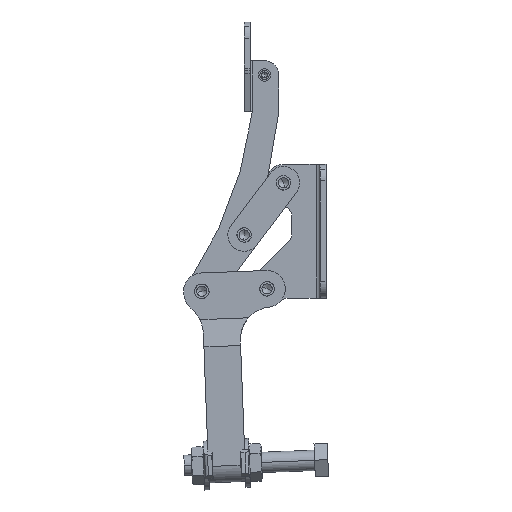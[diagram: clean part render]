
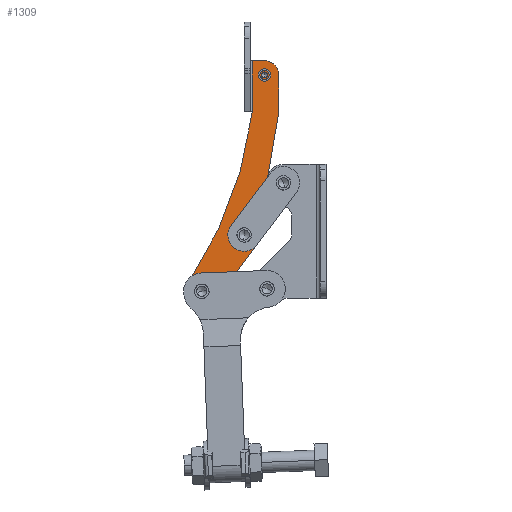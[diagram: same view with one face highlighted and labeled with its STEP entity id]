
A CAD part, left-side view. The second image highlights one B-rep face of the part: STEP entity #1309.
In plain terms, the highlighted free-form (B-spline) face has degree [1, 1] with [2, 2] control points.
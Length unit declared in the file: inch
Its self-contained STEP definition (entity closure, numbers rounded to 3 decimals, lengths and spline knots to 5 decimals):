
#166=CARTESIAN_POINT('',(3.4235,0.97471,-0.0897));
#167=VERTEX_POINT('',#166);
#176=CARTESIAN_POINT('',(3.2005,0.97471,-0.0897));
#177=VERTEX_POINT('',#176);
#178=CARTESIAN_POINT('',(3.312,0.97471,-0.0897));
#179=DIRECTION('',(0.0,0.0,-1.0));
#180=DIRECTION('',(1.0,0.0,0.0));
#181=AXIS2_PLACEMENT_3D('',#178,#179,#180);
#182=CIRCLE('',#181,0.1115);
#183=EDGE_CURVE('',#167,#177,#182,.T.);
#229=CARTESIAN_POINT('',(2.56279,0.32234,-0.0897));
#230=VERTEX_POINT('',#229);
#239=CARTESIAN_POINT('',(2.33979,0.32234,-0.0897));
#240=VERTEX_POINT('',#239);
#241=CARTESIAN_POINT('',(2.45129,0.32234,-0.0897));
#242=DIRECTION('',(0.0,0.0,-1.0));
#243=DIRECTION('',(1.0,0.0,0.0));
#244=AXIS2_PLACEMENT_3D('',#241,#242,#243);
#245=CIRCLE('',#244,0.1115);
#246=EDGE_CURVE('',#230,#240,#245,.T.);
#273=CARTESIAN_POINT('',(0.046,0.0,-0.0897));
#274=VERTEX_POINT('',#273);
#290=CARTESIAN_POINT('',(-0.046,0.,-0.0897));
#291=VERTEX_POINT('',#290);
#298=CARTESIAN_POINT('',(0.0,0.0,-0.0897));
#299=DIRECTION('',(0.0,0.0,-1.0));
#300=DIRECTION('',(1.0,0.0,0.0));
#301=AXIS2_PLACEMENT_3D('',#298,#299,#300);
#302=CIRCLE('',#301,0.046);
#303=EDGE_CURVE('',#291,#274,#302,.T.);
#907=CARTESIAN_POINT('',(0.562,0.18804,-0.0897));
#908=VERTEX_POINT('',#907);
#1196=CARTESIAN_POINT('',(-0.219,0.18804,-0.0897));
#1197=VERTEX_POINT('',#1196);
#1198=CARTESIAN_POINT('',(-0.219,0.18804,-0.0897));
#1199=DIRECTION('',(1.0,0.0,0.0));
#1200=VECTOR('',#1199,0.781);
#1201=LINE('',#1198,#1200);
#1202=EDGE_CURVE('',#1197,#908,#1201,.T.);
#1214=CARTESIAN_POINT('',(-0.219,1.22471,-0.0897));
#1215=CARTESIAN_POINT('',(3.562,1.22471,-0.0897));
#1216=CARTESIAN_POINT('',(-0.219,-0.21896,-0.0897));
#1217=CARTESIAN_POINT('',(3.562,-0.21896,-0.0897));
#1218=B_SPLINE_SURFACE_WITH_KNOTS('',1,1,((#1214,#1216),(#1215,#1217)),.UNSPECIFIED.,.F.,.F.,.U.,(2,2),(2,2),(0.0,3.781),(0.0,1.44367),.UNSPECIFIED.);
#1219=ORIENTED_EDGE('',*,*,#1202,.T.);
#1220=CARTESIAN_POINT('',(3.17068,1.18093,-0.0897));
#1221=VERTEX_POINT('',#1220);
#1222=CARTESIAN_POINT('',(-0.188,6.08197,-0.0897));
#1223=DIRECTION('',(0.0,0.0,1.));
#1224=DIRECTION('',(-0.126,0.992,0.0));
#1225=AXIS2_PLACEMENT_3D('',#1222,#1223,#1224);
#1226=CIRCLE('',#1225,5.94146);
#1227=EDGE_CURVE('',#908,#1221,#1226,.T.);
#1228=ORIENTED_EDGE('',*,*,#1227,.T.);
#1229=CARTESIAN_POINT('',(3.46301,0.77547,-0.0897));
#1230=VERTEX_POINT('',#1229);
#1231=CARTESIAN_POINT('',(3.312,0.97471,-0.0897));
#1232=DIRECTION('',(0.0,0.0,-1.));
#1233=DIRECTION('',(0.604,-0.797,0.0));
#1234=AXIS2_PLACEMENT_3D('',#1231,#1232,#1233);
#1235=CIRCLE('',#1234,0.25);
#1236=EDGE_CURVE('',#1221,#1230,#1235,.T.);
#1237=ORIENTED_EDGE('',*,*,#1236,.T.);
#1238=CARTESIAN_POINT('',(2.63273,0.14616,-0.0897));
#1239=VERTEX_POINT('',#1238);
#1240=CARTESIAN_POINT('',(3.46301,0.77547,-0.0897));
#1241=DIRECTION('',(-0.797,-0.604,0.0));
#1242=VECTOR('',#1241,1.04182);
#1243=LINE('',#1240,#1242);
#1244=EDGE_CURVE('',#1230,#1239,#1243,.T.);
#1245=ORIENTED_EDGE('',*,*,#1244,.T.);
#1246=CARTESIAN_POINT('',(0.562,-0.21896,-0.0897));
#1247=VERTEX_POINT('',#1246);
#1248=CARTESIAN_POINT('',(2.63273,0.14616,-0.0897));
#1249=DIRECTION('',(-0.985,-0.174,0.0));
#1250=VECTOR('',#1249,2.10268);
#1251=LINE('',#1248,#1250);
#1252=EDGE_CURVE('',#1239,#1247,#1251,.T.);
#1253=ORIENTED_EDGE('',*,*,#1252,.T.);
#1254=CARTESIAN_POINT('',(-0.00413,-0.21896,-0.0897));
#1255=VERTEX_POINT('',#1254);
#1256=CARTESIAN_POINT('',(0.562,-0.21896,-0.0897));
#1257=DIRECTION('',(-1.0,0.0,0.0));
#1258=VECTOR('',#1257,0.56613);
#1259=LINE('',#1256,#1258);
#1260=EDGE_CURVE('',#1247,#1255,#1259,.T.);
#1261=ORIENTED_EDGE('',*,*,#1260,.T.);
#1262=CARTESIAN_POINT('',(-0.219,0.0,-0.0897));
#1263=VERTEX_POINT('',#1262);
#1264=CARTESIAN_POINT('',(0.0,0.0,-0.0897));
#1265=DIRECTION('',(0.0,0.0,-1.0));
#1266=DIRECTION('',(-1.0,0.0,0.0));
#1267=AXIS2_PLACEMENT_3D('',#1264,#1265,#1266);
#1268=CIRCLE('',#1267,0.219);
#1269=EDGE_CURVE('',#1255,#1263,#1268,.T.);
#1270=ORIENTED_EDGE('',*,*,#1269,.T.);
#1271=CARTESIAN_POINT('',(-0.219,0.0,-0.0897));
#1272=DIRECTION('',(0.0,1.0,0.0));
#1273=VECTOR('',#1272,0.18804);
#1274=LINE('',#1271,#1273);
#1275=EDGE_CURVE('',#1263,#1197,#1274,.T.);
#1276=ORIENTED_EDGE('',*,*,#1275,.T.);
#1277=EDGE_LOOP('',(#1219,#1228,#1237,#1245,#1253,#1261,#1270,#1276));
#1278=FACE_OUTER_BOUND('',#1277,.T.);
#1279=CARTESIAN_POINT('',(3.312,0.97471,-0.0897));
#1280=DIRECTION('',(0.0,0.0,-1.0));
#1281=DIRECTION('',(1.0,0.0,0.0));
#1282=AXIS2_PLACEMENT_3D('',#1279,#1280,#1281);
#1283=CIRCLE('',#1282,0.1115);
#1284=EDGE_CURVE('',#177,#167,#1283,.T.);
#1285=ORIENTED_EDGE('',*,*,#1284,.F.);
#1286=ORIENTED_EDGE('',*,*,#183,.F.);
#1287=EDGE_LOOP('',(#1285,#1286));
#1288=FACE_BOUND('',#1287,.T.);
#1289=CARTESIAN_POINT('',(2.45129,0.32234,-0.0897));
#1290=DIRECTION('',(0.0,0.0,-1.0));
#1291=DIRECTION('',(1.0,0.0,0.0));
#1292=AXIS2_PLACEMENT_3D('',#1289,#1290,#1291);
#1293=CIRCLE('',#1292,0.1115);
#1294=EDGE_CURVE('',#240,#230,#1293,.T.);
#1295=ORIENTED_EDGE('',*,*,#1294,.F.);
#1296=ORIENTED_EDGE('',*,*,#246,.F.);
#1297=EDGE_LOOP('',(#1295,#1296));
#1298=FACE_BOUND('',#1297,.T.);
#1299=CARTESIAN_POINT('',(0.0,0.0,-0.0897));
#1300=DIRECTION('',(0.0,0.0,-1.0));
#1301=DIRECTION('',(1.0,0.0,0.0));
#1302=AXIS2_PLACEMENT_3D('',#1299,#1300,#1301);
#1303=CIRCLE('',#1302,0.046);
#1304=EDGE_CURVE('',#274,#291,#1303,.T.);
#1305=ORIENTED_EDGE('',*,*,#1304,.F.);
#1306=ORIENTED_EDGE('',*,*,#303,.F.);
#1307=EDGE_LOOP('',(#1305,#1306));
#1308=FACE_BOUND('',#1307,.T.);
#1309=ADVANCED_FACE('',(#1278,#1288,#1298,#1308),#1218,.T.);
